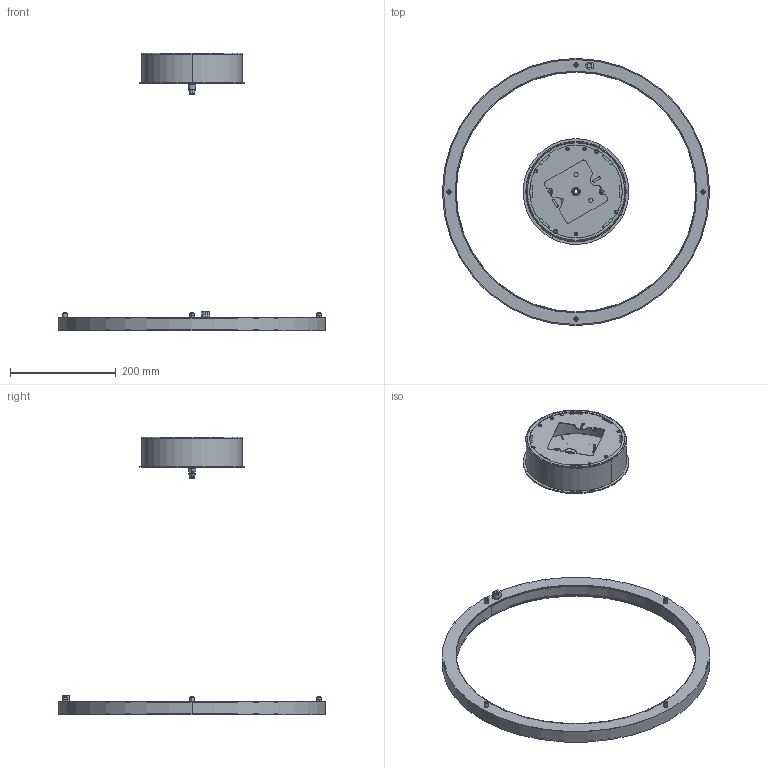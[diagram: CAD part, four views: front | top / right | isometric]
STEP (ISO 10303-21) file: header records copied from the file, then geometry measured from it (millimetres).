
FILE_DESCRIPTION (( 'STEP AP203' ), '1' );
FILE_NAME ('circus_500.STEP', '2020-04-01T07:48:38', ( '' ), ( '' ), 'SwSTEP 2.0', 'SolidWorks 2019', '' );
FILE_SCHEMA (( 'CONFIG_CONTROL_DESIGN' ));
Length unit declared in the file: millimetre
Products named in the file (1): circus_500
Bounding box: 505 x 505 x 525 mm (x, y, z)
Volume: 404100.3 mm3; surface area: 513247.4 mm2
Topology: 29 solids, 29 shells, 465 faces, 1086 edges, 702 vertices
Faces by surface type: cylinder 249, plane 158, cone 42, torus 16
Entity records: 13651 total; most frequent: DIRECTION 2596, CARTESIAN_POINT 2254, ORIENTED_EDGE 2172, EDGE_CURVE 1086, AXIS2_PLACEMENT_3D 1044, VERTEX_POINT 702, CIRCLE 578, EDGE_LOOP 568
